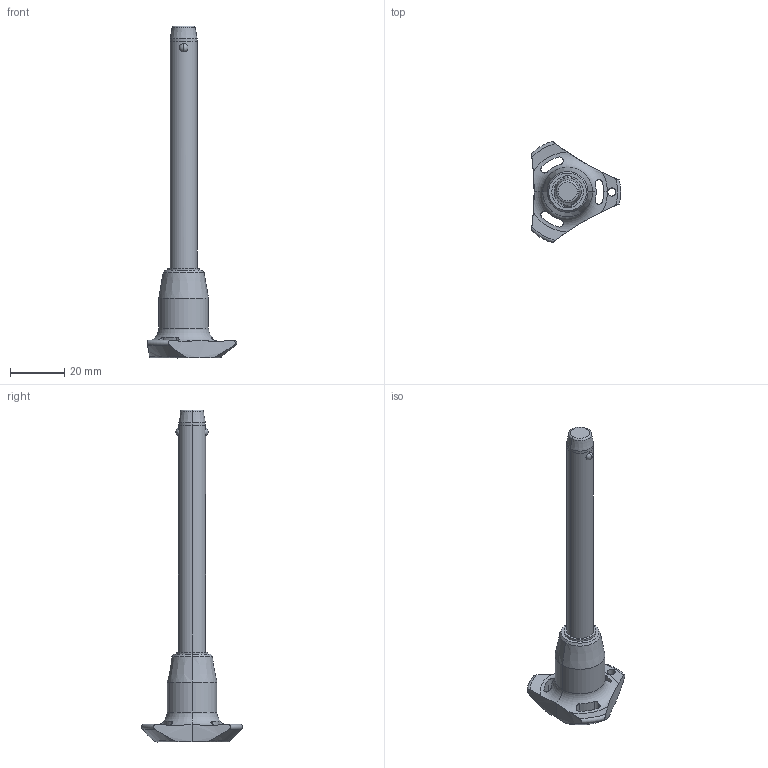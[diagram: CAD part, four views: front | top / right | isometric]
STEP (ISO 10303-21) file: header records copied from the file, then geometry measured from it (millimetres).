
FILE_DESCRIPTION (( 'STEP AP203' ), '1' );
FILE_NAME ('QR1716.M10-080-T.step', '2025-11-13T10:34:06', ( '' ), ( '' ), 'SwSTEP 2.0', 'SolidWorks 2019', '' );
FILE_SCHEMA (( 'CONFIG_CONTROL_DESIGN' ));
Length unit declared in the file: millimetre
Products named in the file (1): QR1716.M10-080-T
Bounding box: 33 x 37.51 x 122.9 mm (x, y, z)
Volume: 16690.2 mm3; surface area: 6606.7 mm2
Topology: 1 solids, 1 shells, 68 faces, 180 edges, 113 vertices
Faces by surface type: cylinder 32, cone 14, torus 11, sphere 6, plane 5
Entity records: 2823 total; most frequent: CARTESIAN_POINT 1083, ORIENTED_EDGE 360, DIRECTION 347, EDGE_CURVE 180, AXIS2_PLACEMENT_3D 154, VERTEX_POINT 113, CIRCLE 85, EDGE_LOOP 75
